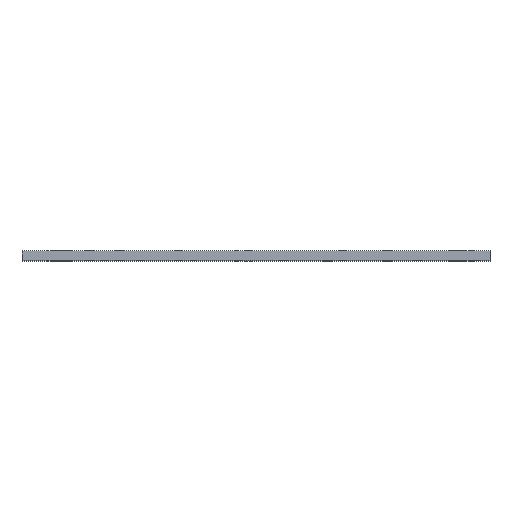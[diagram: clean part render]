
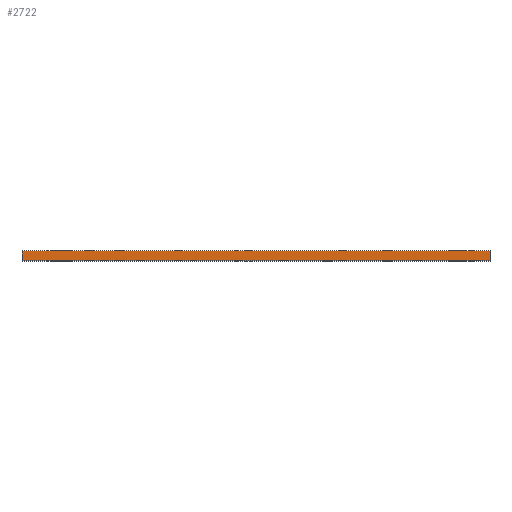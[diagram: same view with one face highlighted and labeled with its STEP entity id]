
A CAD part, top view. The second image highlights one B-rep face of the part: STEP entity #2722.
In plain terms, the highlighted planar face has unit normal (0, 0, 1).
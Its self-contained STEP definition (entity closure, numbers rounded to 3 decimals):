
#569 = EDGE_CURVE ( 'NONE', #5584, #7263, #1102, .T. ) ;
#584 = CARTESIAN_POINT ( 'NONE',  ( 0.102, 1.6, 79.998 ) ) ;
#734 = EDGE_CURVE ( 'NONE', #9327, #5584, #2428, .T. ) ;
#1102 = LINE ( 'NONE', #2934, #6170 ) ;
#1142 = EDGE_LOOP ( 'NONE', ( #7450, #6822, #3489, #6961 ) ) ;
#1537 = VECTOR ( 'NONE', #3542, 1000. ) ;
#2428 = LINE ( 'NONE', #8048, #6297 ) ;
#2544 = CARTESIAN_POINT ( 'NONE',  ( 0.102, 0., 79.998 ) ) ;
#2722 = ADVANCED_FACE ( 'NONE', ( #3856 ), #5663, .T. ) ;
#2733 = CARTESIAN_POINT ( 'NONE',  ( 79.998, 0., 79.998 ) ) ;
#2934 = CARTESIAN_POINT ( 'NONE',  ( 0.102, 1.6, 79.998 ) ) ;
#3164 = DIRECTION ( 'NONE',  ( 1., 0., 0. ) ) ;
#3489 = ORIENTED_EDGE ( 'NONE', *, *, #5792, .T. ) ;
#3542 = DIRECTION ( 'NONE',  ( 0., 1., 0. ) ) ;
#3856 = FACE_OUTER_BOUND ( 'NONE', #1142, .T. ) ;
#4285 = DIRECTION ( 'NONE',  ( 1., 0., 0. ) ) ;
#4923 = VERTEX_POINT ( 'NONE', #2733 ) ;
#4925 = CARTESIAN_POINT ( 'NONE',  ( 79.998, 1.6, 79.998 ) ) ;
#5111 = LINE ( 'NONE', #2544, #7489 ) ;
#5584 = VERTEX_POINT ( 'NONE', #584 ) ;
#5663 = PLANE ( 'NONE',  #10007 ) ;
#5792 = EDGE_CURVE ( 'NONE', #9327, #4923, #5111, .T. ) ;
#6060 = DIRECTION ( 'NONE',  ( 1., 0., 0. ) ) ;
#6170 = VECTOR ( 'NONE', #6060, 1000. ) ;
#6297 = VECTOR ( 'NONE', #7241, 1000. ) ;
#6379 = LINE ( 'NONE', #7498, #1537 ) ;
#6434 = CARTESIAN_POINT ( 'NONE',  ( 0.102, 0., 79.998 ) ) ;
#6822 = ORIENTED_EDGE ( 'NONE', *, *, #734, .F. ) ;
#6961 = ORIENTED_EDGE ( 'NONE', *, *, #9722, .T. ) ;
#7124 = CARTESIAN_POINT ( 'NONE',  ( 0.102, 0., 79.998 ) ) ;
#7184 = DIRECTION ( 'NONE',  ( 0., 0., 1. ) ) ;
#7241 = DIRECTION ( 'NONE',  ( 0., 1., 0. ) ) ;
#7263 = VERTEX_POINT ( 'NONE', #4925 ) ;
#7450 = ORIENTED_EDGE ( 'NONE', *, *, #569, .F. ) ;
#7489 = VECTOR ( 'NONE', #4285, 1000. ) ;
#7498 = CARTESIAN_POINT ( 'NONE',  ( 79.998, 0., 79.998 ) ) ;
#8048 = CARTESIAN_POINT ( 'NONE',  ( 0.102, 0., 79.998 ) ) ;
#9327 = VERTEX_POINT ( 'NONE', #7124 ) ;
#9722 = EDGE_CURVE ( 'NONE', #4923, #7263, #6379, .T. ) ;
#10007 = AXIS2_PLACEMENT_3D ( 'NONE', #6434, #7184, #3164 ) ;
